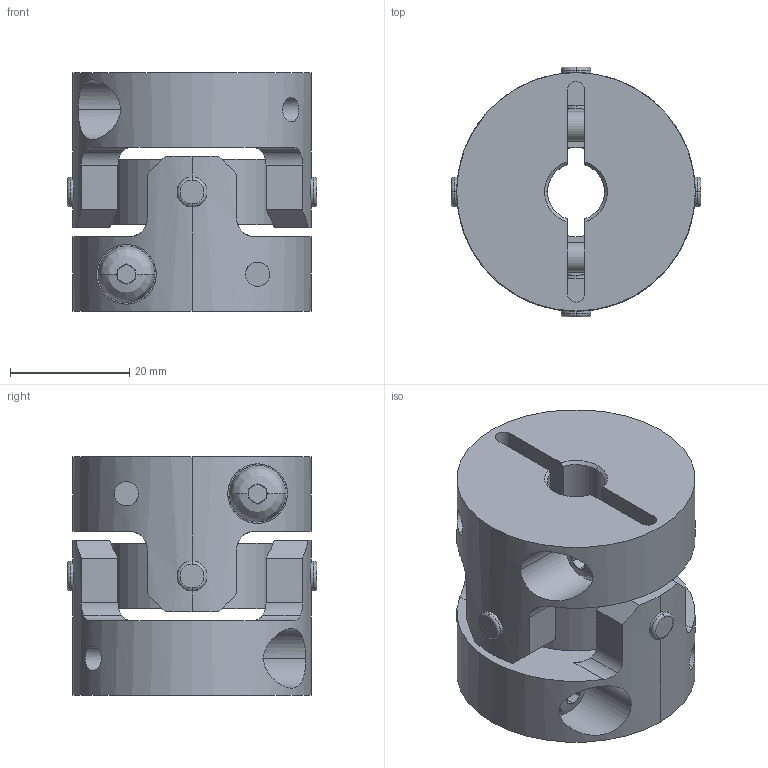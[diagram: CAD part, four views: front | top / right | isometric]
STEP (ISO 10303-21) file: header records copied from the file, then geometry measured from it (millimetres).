
FILE_DESCRIPTION((''),'2;1');
FILE_NAME('UA-40C-9.525×15.stp','2013-11-19T08:37:56',(''),(''),'AutoCAD STEP 2000i','AutoCAD 2000i',', , ');
FILE_SCHEMA(('CONFIG_CONTROL_DESIGN'));
Length unit declared in the file: millimetre
Products named in the file (6): UA-40C-8×8; 忣兜1; UA-4002-D08-1; BTN-M5; UA-4002-D08; UA40-SEN
Assembly tree (6 placements, depth 3):
  UA-40C-8×8
    忣兜1
    UA-4002-D08-1
      BTN-M5
    UA-4002-D08
      BTN-M5
    UA40-SEN
Bounding box: 41.81 x 41.81 x 40 mm (x, y, z)
Volume: 33693.2 mm3; surface area: 15552.2 mm2
Topology: 1 solids, 1 shells, 250 faces, 646 edges, 408 vertices
Faces by surface type: plane 122, cylinder 96, cone 16, bspline 8, torus 8
Entity records: 9627 total; most frequent: CARTESIAN_POINT 3371, ORIENTED_EDGE 1292, DIRECTION 1288, EDGE_CURVE 646, AXIS2_PLACEMENT_3D 497, VERTEX_POINT 408, VECTOR 294, LINE 294
